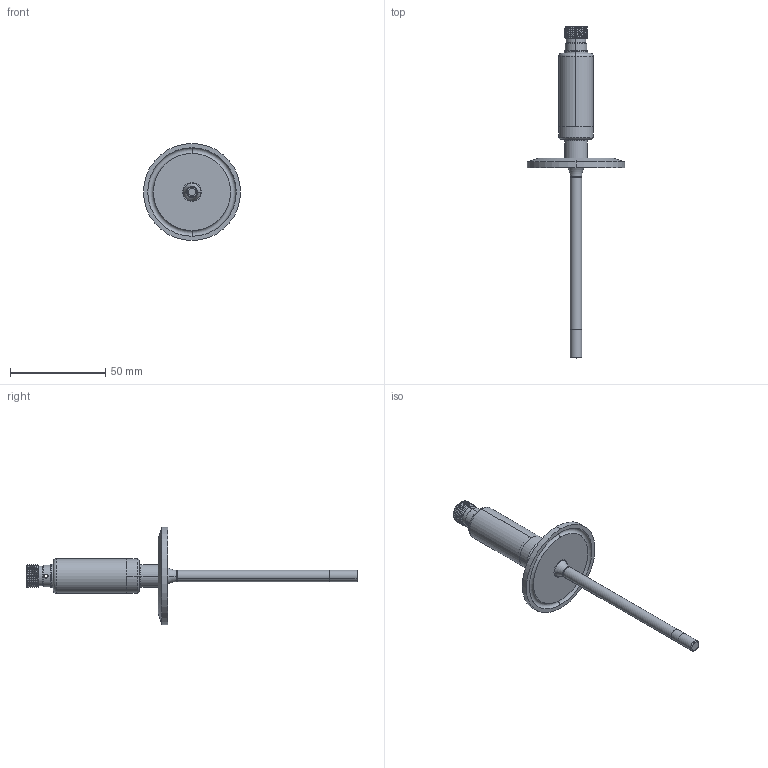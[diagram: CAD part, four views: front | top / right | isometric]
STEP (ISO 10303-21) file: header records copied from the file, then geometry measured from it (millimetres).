
FILE_DESCRIPTION (( 'STEP AP203' ), '1' );
FILE_NAME ('縐攫50.5TA恲僅L100蚾饜极.STEP', '2026-03-03T06:42:17', ( '' ), ( '' ), 'SwSTEP 2.0', 'SolidWorks 2022', '' );
FILE_SCHEMA (( 'CONFIG_CONTROL_DESIGN' ));
Length unit declared in the file: millimetre
Products named in the file (7): 抻芛奪酗僅15; 瑤脣釱褲; 抻芛晊酗奪85; 縐攫50.5TA恲僅L100蚾饜极; 褲极; 50.5縐攫; 卡盘和壳体连接件
Assembly tree (6 placements, depth 2):
  縐攫50.5TA恲僅L100蚾饜极
    50.5縐攫
    卡盘和壳体连接件
    褲极
    瑤脣釱褲
    抻芛奪酗僅15
    抻芛晊酗奪85
Bounding box: 51 x 174.4 x 51 mm (x, y, z)
Volume: 13196.8 mm3; surface area: 16040.1 mm2
Topology: 6 solids, 6 shells, 128 faces, 275 edges, 174 vertices
Faces by surface type: cylinder 68, plane 29, torus 20, cone 8, bspline 3
Entity records: 5589 total; most frequent: CARTESIAN_POINT 2031, DIRECTION 650, ORIENTED_EDGE 550, AXIS2_PLACEMENT_3D 286, EDGE_CURVE 275, VERTEX_POINT 174, EDGE_LOOP 157, CIRCLE 152
